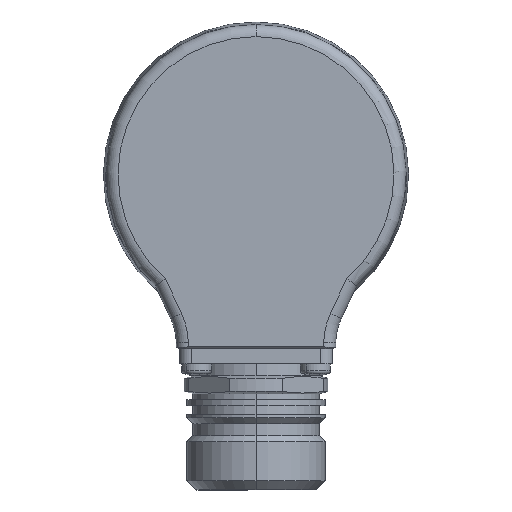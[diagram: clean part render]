
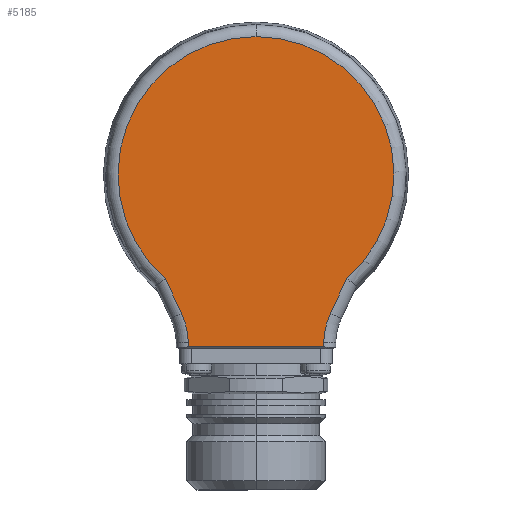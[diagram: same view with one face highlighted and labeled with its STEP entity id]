
A CAD part, left-side view. The second image highlights one B-rep face of the part: STEP entity #5185.
In plain terms, the highlighted planar face has unit normal (-1, 0, 0).
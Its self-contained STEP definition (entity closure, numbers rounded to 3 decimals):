
#4190 = EDGE_CURVE ( 'NONE', #4191, #4193, #20767, .T. ) ;
#4191 = VERTEX_POINT ( 'NONE', #20762 ) ;
#4193 = VERTEX_POINT ( 'NONE', #20761 ) ;
#5115 = EDGE_CURVE ( 'NONE', #5148, #4191, #24282, .T. ) ;
#5116 = ORIENTED_EDGE ( 'NONE', *, *, #4190, .T. ) ;
#5117 = ORIENTED_EDGE ( 'NONE', *, *, #5118, .T. ) ;
#5118 = EDGE_CURVE ( 'NONE', #4193, #5119, #24278, .T. ) ;
#5119 = VERTEX_POINT ( 'NONE', #24332 ) ;
#5120 = ORIENTED_EDGE ( 'NONE', *, *, #5121, .T. ) ;
#5121 = EDGE_CURVE ( 'NONE', #5119, #5189, #24330, .T. ) ;
#5143 = ORIENTED_EDGE ( 'NONE', *, *, #5144, .T. ) ;
#5144 = EDGE_CURVE ( 'NONE', #5196, #5145, #24401, .T. ) ;
#5145 = VERTEX_POINT ( 'NONE', #24458 ) ;
#5146 = ORIENTED_EDGE ( 'NONE', *, *, #5147, .T. ) ;
#5147 = EDGE_CURVE ( 'NONE', #5145, #5148, #24457, .T. ) ;
#5148 = VERTEX_POINT ( 'NONE', #24453 ) ;
#5149 = ORIENTED_EDGE ( 'NONE', *, *, #5115, .T. ) ;
#5185 = ADVANCED_FACE ( 'NONE', ( #24563 ), #24544, .F. ) ;
#5186 = EDGE_LOOP ( 'NONE', ( #5187, #5191, #5194, #5143, #5146, #5149, #5116, #5117, #5120 ) ) ;
#5187 = ORIENTED_EDGE ( 'NONE', *, *, #5188, .T. ) ;
#5188 = EDGE_CURVE ( 'NONE', #5189, #5190, #24543, .T. ) ;
#5189 = VERTEX_POINT ( 'NONE', #24589 ) ;
#5190 = VERTEX_POINT ( 'NONE', #24588 ) ;
#5191 = ORIENTED_EDGE ( 'NONE', *, *, #5192, .T. ) ;
#5192 = EDGE_CURVE ( 'NONE', #5190, #5193, #24587, .T. ) ;
#5193 = VERTEX_POINT ( 'NONE', #24583 ) ;
#5194 = ORIENTED_EDGE ( 'NONE', *, *, #5195, .T. ) ;
#5195 = EDGE_CURVE ( 'NONE', #5193, #5196, #24582, .T. ) ;
#5196 = VERTEX_POINT ( 'NONE', #24578 ) ;
#20761 = CARTESIAN_POINT ( 'NONE',  ( -21., 15.091, -17.32 ) ) ;
#20762 = CARTESIAN_POINT ( 'NONE',  ( -21., 0., 22.972 ) ) ;
#20763 = DIRECTION ( 'NONE',  ( 0., 0., 1. ) ) ;
#20764 = DIRECTION ( 'NONE',  ( -1., 0., 0. ) ) ;
#20765 = CARTESIAN_POINT ( 'NONE',  ( -21., 0., 0. ) ) ;
#20766 = AXIS2_PLACEMENT_3D ( 'NONE', #20765, #20764, #20763 ) ;
#20767 = CIRCLE ( 'NONE', #20766, 22.972 ) ;
#23482 = DIRECTION ( 'NONE',  ( 1., 0., 0. ) ) ;
#23714 = CARTESIAN_POINT ( 'NONE',  ( -21., -23.266, -28.183 ) ) ;
#23715 = AXIS2_PLACEMENT_3D ( 'NONE', #23714, #23482, #24174 ) ;
#24174 = DIRECTION ( 'NONE',  ( 0., 0., 1. ) ) ;
#24275 = DIRECTION ( 'NONE',  ( 0., -0.423, -0.906 ) ) ;
#24276 = VECTOR ( 'NONE', #24275, 1000. ) ;
#24277 = CARTESIAN_POINT ( 'NONE',  ( -21., 12.39, -23.112 ) ) ;
#24278 = LINE ( 'NONE', #24277, #24276 ) ;
#24279 = DIRECTION ( 'NONE',  ( 0., 0., 1. ) ) ;
#24280 = DIRECTION ( 'NONE',  ( -1., 0., 0. ) ) ;
#24281 = AXIS2_PLACEMENT_3D ( 'NONE', #24289, #24280, #24279 ) ;
#24282 = CIRCLE ( 'NONE', #24281, 22.972 ) ;
#24289 = CARTESIAN_POINT ( 'NONE',  ( -21., 0., 0. ) ) ;
#24326 = DIRECTION ( 'NONE',  ( 0., 0., 1. ) ) ;
#24327 = DIRECTION ( 'NONE',  ( 1., 0., 0. ) ) ;
#24328 = CARTESIAN_POINT ( 'NONE',  ( -21., 23.266, -28.183 ) ) ;
#24329 = AXIS2_PLACEMENT_3D ( 'NONE', #24328, #24327, #24326 ) ;
#24330 = CIRCLE ( 'NONE', #24329, 12. ) ;
#24332 = CARTESIAN_POINT ( 'NONE',  ( -21., 12.39, -23.112 ) ) ;
#24401 = CIRCLE ( 'NONE', #23715, 12. ) ;
#24453 = CARTESIAN_POINT ( 'NONE',  ( -21., -15.091, -17.32 ) ) ;
#24454 = DIRECTION ( 'NONE',  ( 0., -0.423, 0.906 ) ) ;
#24455 = VECTOR ( 'NONE', #24454, 1000. ) ;
#24456 = CARTESIAN_POINT ( 'NONE',  ( -21., -14.953, -17.615 ) ) ;
#24457 = LINE ( 'NONE', #24456, #24455 ) ;
#24458 = CARTESIAN_POINT ( 'NONE',  ( -21., -12.39, -23.112 ) ) ;
#24541 = CARTESIAN_POINT ( 'NONE',  ( -21., 0., 0. ) ) ;
#24542 = AXIS2_PLACEMENT_3D ( 'NONE', #24541, #24594, #24593 ) ;
#24543 = LINE ( 'NONE', #24592, #24591 ) ;
#24544 = PLANE ( 'NONE',  #24542 ) ;
#24563 = FACE_OUTER_BOUND ( 'NONE', #5186, .T. ) ;
#24578 = CARTESIAN_POINT ( 'NONE',  ( -21., -11.268, -27.974 ) ) ;
#24579 = DIRECTION ( 'NONE',  ( 0., -0.017, 1. ) ) ;
#24580 = VECTOR ( 'NONE', #24579, 1000. ) ;
#24581 = CARTESIAN_POINT ( 'NONE',  ( -21., -11.752, -0.205 ) ) ;
#24582 = LINE ( 'NONE', #24581, #24580 ) ;
#24583 = CARTESIAN_POINT ( 'NONE',  ( -21., -11.255, -28.695 ) ) ;
#24584 = DIRECTION ( 'NONE',  ( 0., -1., 0. ) ) ;
#24585 = VECTOR ( 'NONE', #24584, 1000. ) ;
#24586 = CARTESIAN_POINT ( 'NONE',  ( -21., -11.25, -28.695 ) ) ;
#24587 = LINE ( 'NONE', #24586, #24585 ) ;
#24588 = CARTESIAN_POINT ( 'NONE',  ( -21., 11.255, -28.695 ) ) ;
#24589 = CARTESIAN_POINT ( 'NONE',  ( -21., 11.268, -27.974 ) ) ;
#24590 = DIRECTION ( 'NONE',  ( 0., -0.017, -1. ) ) ;
#24591 = VECTOR ( 'NONE', #24590, 1000. ) ;
#24592 = CARTESIAN_POINT ( 'NONE',  ( -21., 11.752, -0.205 ) ) ;
#24593 = DIRECTION ( 'NONE',  ( 0., 0., 1. ) ) ;
#24594 = DIRECTION ( 'NONE',  ( 1., 0., 0. ) ) ;
